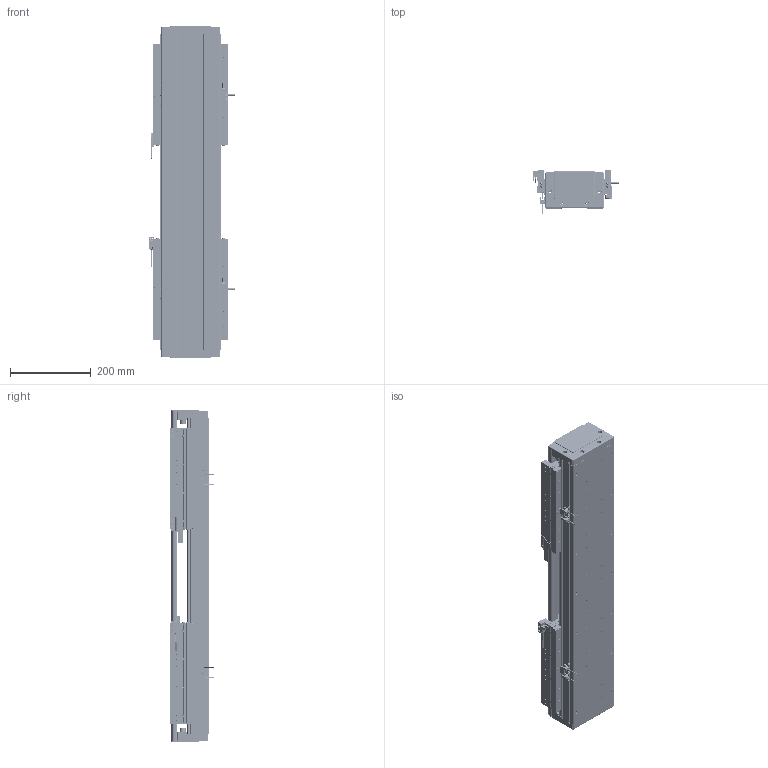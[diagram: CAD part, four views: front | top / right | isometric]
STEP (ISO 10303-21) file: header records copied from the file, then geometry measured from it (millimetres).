
FILE_DESCRIPTION (( 'STEP AP203' ), '1' );
FILE_NAME ('DA-C145-2-C3-T200-C010-0.2 眻盄萇儂.STEP', '2025-08-13T10:13:24', ( '' ), ( '' ), 'SwSTEP 2.0', 'SolidWorks 2019', '' );
FILE_SCHEMA (( 'CONFIG_CONTROL_DESIGN' ));
Length unit declared in the file: millimetre
Products named in the file (35): 葩璃 PM-Y65^DA-C145-2-C3-T-C010-0.2; 复件 内六角平端紧定螺钉 GB.T77-2000 M5×10^CU145-W 滚珠滑台; 葩璃 DA145-C3-DP-A-00 菜えA^CU145-W 幗紩賑怢; DA-C145-2-C3-T200-C010-0.2 眻盄萇儂; CU145-W-00 珨极趙賑雄怢啣; 葩璃 CKMA01-W060-TRL^DA-C145-2-C3-T-C010-0.2; CU145-W-00 珨极趙賑雄怢啣-1; 66245-CU145-HT-W-00 賑雄怢啣(3D芞祧)(00); 葩璃 CKM03-W060-C1C2-TP-0.2^DA-C145-2-C3-T-C010-0.2; DKW-KGZ-ZJ-00 中间光电开关支架; 葩璃 XD-U-02L 棠掑喜^DA-C145-2-C3-T-C010-0.2; 复件 DA95-HK-GT-00 滑块钢轨^CU145-W-00 一体化滑动台板; IU-CU145-L-00 菁釱(L780); 复件 DA145-C3-YB-A-00 压板A^CU145-W 滚珠滑台; 复件 纯铜油杯 6x6mm^CU145-W 滚珠滑台; 葩璃 鞠褒情蹟譫 M3^DA-C145-2-C3-T-C010-0.2; DKW-GYP-ZJ-00 笢潔嫖萇覜茼え; 葩璃 DA95-GT-T-00^IU-CU145-L 菁釱絳寢; 葩璃 DA95-HXJ-00 遣喳砎蝶^DA-C145-2-C3-T-C010-0.2; 复件 DA95-MFP-01 密封片^CU145-W 滚珠滑台; CU145-W 幗紩賑怢; TAY01-M8; 葩璃 PM-T45^DA-C145-2-C3-T-C010-0.2; 复件 DA95-DB-00  挡板^CU145-W 滚珠滑台; 复件 DA145-GYP-00 光电感应片^DA-C145-2-C3-T-C010-0.2; CU145-W 幗紩賑怢-1; 葩璃 DA145-C3-DP-B-00 菜えB^CU145-W 幗紩賑怢; 复件 DA145-C3-YB-B-00 压板B^CU145-W 滚珠滑台; 葩璃 DA145-DG-H-N-00 傷裔^DA-C145-2-C3-T-C010-0.2; IU-CU145-L 菁釱絳寢; 复件 半圆头内六角螺钉 M3×6^CU145-W 滚珠滑台; 葩璃 DMA-010-0.2 黍杅芛^DA-C145-2-C3-T-C010-0.2; 复件 DA145-C3-DK-00 挡块^CU145-W 滚珠滑台; 葩璃 DA145-T-003-00 裔啣^DA-C145-2-C3-T-C010-0.2; DKW168-HXJ-ZJ-00 笢潔滅袉砎蝶
Assembly tree (175 placements, depth 4):
  DA-C145-2-C3-T200-C010-0.2 眻盄萇儂
    IU-CU145-L 菁釱絳寢
      IU-CU145-L-00 菁釱(L780)
      葩璃 DA95-GT-T-00^IU-CU145-L 菁釱絳寢  x4
    CU145-W 幗紩賑怢
      CU145-W-00 珨极趙賑雄怢啣
        66245-CU145-HT-W-00 賑雄怢啣(3D芞祧)(00)
        复件 DA95-HK-GT-00 滑块钢轨^CU145-W-00 一体化滑动台板  x8
      复件 DA95-MFP-01 密封片^CU145-W 滚珠滑台  x8
      复件 DA95-DB-00  挡板^CU145-W 滚珠滑台  x8
      复件 内六角平端紧定螺钉 GB.T77-2000 M5×10^CU145-W 滚珠滑台  x4
      复件 纯铜油杯 6x6mm^CU145-W 滚珠滑台  x4
      复件 半圆头内六角螺钉 M3×6^CU145-W 滚珠滑台  x16
      复件 DA145-C3-DK-00 挡块^CU145-W 滚珠滑台  x4
      葩璃 DA145-C3-DP-B-00 菜えB^CU145-W 幗紩賑怢  x2
      复件 DA145-C3-YB-B-00 压板B^CU145-W 滚珠滑台  x2
      葩璃 DA145-C3-DP-A-00 菜えA^CU145-W 幗紩賑怢  x3
      复件 DA145-C3-YB-A-00 压板A^CU145-W 滚珠滑台  x3
      TAY01-M8  x4
    CU145-W 幗紩賑怢-1
      CU145-W-00 珨极趙賑雄怢啣-1
        66245-CU145-HT-W-00 賑雄怢啣(3D芞祧)(00)
        复件 DA95-HK-GT-00 滑块钢轨^CU145-W-00 一体化滑动台板  x8
      复件 DA95-MFP-01 密封片^CU145-W 滚珠滑台  x8
      复件 DA95-DB-00  挡板^CU145-W 滚珠滑台  x8
      复件 内六角平端紧定螺钉 GB.T77-2000 M5×10^CU145-W 滚珠滑台  x4
      复件 纯铜油杯 6x6mm^CU145-W 滚珠滑台  x4
      复件 半圆头内六角螺钉 M3×6^CU145-W 滚珠滑台  x16
      复件 DA145-C3-DK-00 挡块^CU145-W 滚珠滑台  x4
      葩璃 DA145-C3-DP-B-00 菜えB^CU145-W 幗紩賑怢  x2
      复件 DA145-C3-YB-B-00 压板B^CU145-W 滚珠滑台  x2
      葩璃 DA145-C3-DP-A-00 菜えA^CU145-W 幗紩賑怢  x3
      复件 DA145-C3-YB-A-00 压板A^CU145-W 滚珠滑台  x3
      TAY01-M8  x4
    葩璃 CKMA01-W060-TRL^DA-C145-2-C3-T-C010-0.2
    葩璃 PM-T45^DA-C145-2-C3-T-C010-0.2  x4
    葩璃 XD-U-02L 棠掑喜^DA-C145-2-C3-T-C010-0.2
    葩璃 DA145-DG-H-N-00 傷裔^DA-C145-2-C3-T-C010-0.2  x2
    葩璃 DA145-T-003-00 裔啣^DA-C145-2-C3-T-C010-0.2
    葩璃 DA95-HXJ-00 遣喳砎蝶^DA-C145-2-C3-T-C010-0.2  x4
    葩璃 CKM03-W060-C1C2-TP-0.2^DA-C145-2-C3-T-C010-0.2  x2
    葩璃 DMA-010-0.2 黍杅芛^DA-C145-2-C3-T-C010-0.2  x2
    复件 DA145-GYP-00 光电感应片^DA-C145-2-C3-T-C010-0.2  x2
    DKW-GYP-ZJ-00 笢潔嫖萇覜茼え
    DKW-KGZ-ZJ-00 中间光电开关支架
    葩璃 PM-Y65^DA-C145-2-C3-T-C010-0.2
    葩璃 鞠褒情蹟譫 M3^DA-C145-2-C3-T-C010-0.2  x8
    DKW168-HXJ-ZJ-00 笢潔滅袉砎蝶
Bounding box: 213.7 x 108.45 x 820 mm (x, y, z)
Volume: 7815500 mm3; surface area: 2061718.2 mm2
Topology: 171 solids, 235 shells, 6783 faces, 17368 edges, 10611 vertices
Faces by surface type: plane 2926, cylinder 2569, cone 1120, torus 152, sphere 8, bspline 8
Entity records: 98235 total; most frequent: CARTESIAN_POINT 22910, DIRECTION 14311, ORIENTED_EDGE 13900, EDGE_CURVE 6950, AXIS2_PLACEMENT_3D 5173, VERTEX_POINT 4460, LINE 3965, VECTOR 3965
